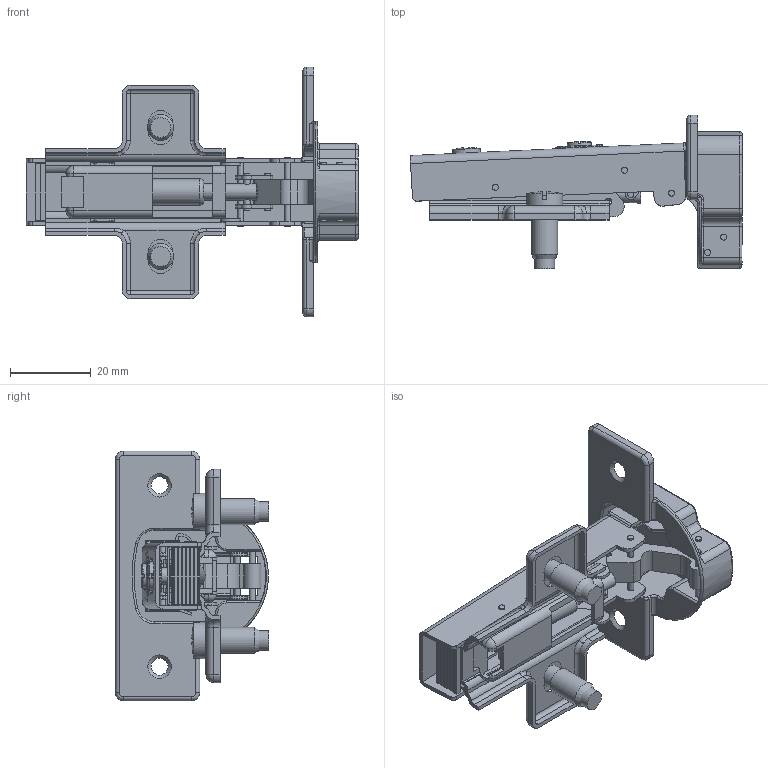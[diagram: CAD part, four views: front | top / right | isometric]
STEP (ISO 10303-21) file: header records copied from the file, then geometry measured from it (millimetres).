
FILE_DESCRIPTION(/* description */ (''),/* implementation_level */ '2;1');
FILE_NAME(/* name */ 'W:\R&D\pub\Katalog techniczny\bryły 3D\ZM-INHC09ZEO.stp',/* time_stamp */ '2016-09-14T14:52:31+02:00',/* author */ ('tomaszw'),/* organization */ (''),/* preprocessor_version */ 'ST-DEVELOPER v16.1',/* originating_system */ 'Autodesk Inventor 2016',/* authorisation */ '');
FILE_SCHEMA (('AUTOMOTIVE_DESIGN { 1 0 10303 214 3 1 1 }'));
Length unit declared in the file: millimetre
Products named in the file (15): ZM-INHC0-P; ZM-INHC0_2; ZM-INHC09; ZM-INHC0_1; ZM-INHC0_4; ZM-INHC0_Pin2; ZM-INHC0_Pin1; Euro; Wkret4x6; ZM-INHC0_5; ZM-INHC0_6; ZM-INHC0_7; ZM-INHC0_8_9; ZM-INHC0_3_9; ZM-INHC07(8)(9)0ZEO(BEO)
Assembly tree (19 placements, depth 2):
  ZM-INHC07(8)(9)0ZEO(BEO)
    ZM-INHC0-P
    ZM-INHC0_2
    ZM-INHC09
    ZM-INHC0_1
    ZM-INHC0_4
    ZM-INHC0_Pin2  x4
    ZM-INHC0_Pin1  x2
    Euro  x2
    Wkret4x6
    ZM-INHC0_5
    ZM-INHC0_6
    ZM-INHC0_7
    ZM-INHC0_8_9
    ZM-INHC0_3_9
Bounding box: 82.39 x 38.1 x 62 mm (x, y, z)
Volume: 12326.4 mm3; surface area: 24218.6 mm2
Topology: 21 solids, 21 shells, 876 faces, 2215 edges, 1381 vertices
Faces by surface type: plane 391, cylinder 301, torus 78, bspline 62, sphere 22, cone 22
Full cylindrical faces by diameter (mm): 1.5 x34, 4 x2, 5 x3, 5.5 x2, 6 x1, 6.5 x4, 7 x1, 9 x2
Entity records: 27601 total; most frequent: CARTESIAN_POINT 6094, DIRECTION 4342, ORIENTED_EDGE 4172, EDGE_CURVE 2086, AXIS2_PLACEMENT_3D 1577, VERTEX_POINT 1332, LINE 1188, VECTOR 1188
